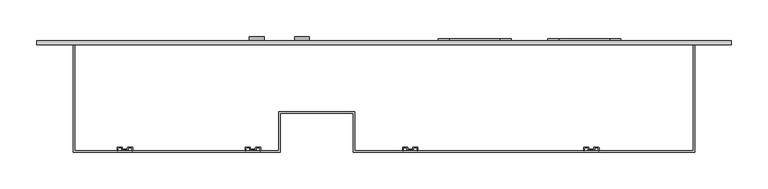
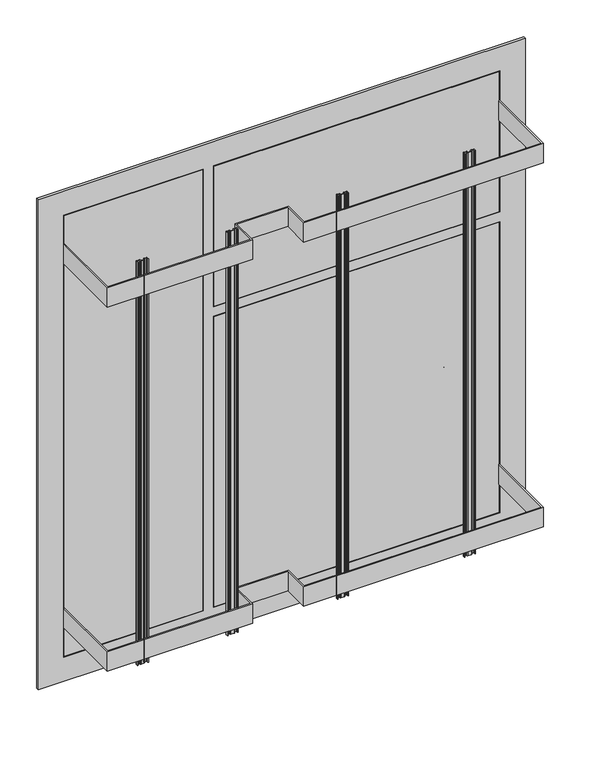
"""IFC4 building model written with IfcOpenShell, lengths in millimetres: proxy geometry, ЩЭ : ЩЭ_3 квартиры."""

from ifc_helpers import new_model, si_unit, point, frame, frame_2d, origin, place, context, project, spatial, polyline, circle_curve, trimmed, segment, composite_curve, outline, extrude, source, transform, mapped, element, save
from ifc_brep_helpers import plane_surface, cylinder_surface, revolved_surface, advanced_brep


def electrical_equipment_25a24726(model_context):
    return source(origin(), model_context, "Body", "SolidModel", [
        extrude(outline(composite_curve([segment(trimmed(circle_curve(frame_2d((373.0, 239.0)), 15.0), [point((388.0, 239.0))], [point((373.0, 224.0))], False, "CARTESIAN"), True, "CONTINUOUS"), segment(polyline([(373.0, 224.0), (338.0, 224.0)]), True, "CONTINUOUS"), segment(trimmed(circle_curve(frame_2d((338.0, 239.0)), 15.0), [point((338.0, 224.0))], [point((323.0, 239.0))], False, "CARTESIAN"), True, "CONTINUOUS"), segment(polyline([(323.0, 239.0), (323.0, 309.0)]), True, "CONTINUOUS"), segment(trimmed(circle_curve(frame_2d((338.0, 309.0)), 15.0), [point((323.0, 309.0))], [point((338.0, 324.0))], False, "CARTESIAN"), True, "CONTINUOUS"), segment(polyline([(338.0, 324.0), (373.0, 324.0)]), True, "CONTINUOUS"), segment(trimmed(circle_curve(frame_2d((373.0, 309.0)), 15.0), [point((373.0, 324.0))], [point((388.0, 309.0))], False, "CARTESIAN"), True, "CONTINUOUS"), segment(polyline([(388.0, 309.0), (388.0, 239.0)]), True, "CONTINUOUS")], self_intersect=False)), frame((0.0, 5.0, 0.0), z_axis=(0.0, 1.0, 0.0), x_axis=(0.0, 0.0, 1.0)), (0.0, 0.0, 1.0), 3.0),
        extrude(outline(composite_curve([segment(trimmed(circle_curve(frame_2d((498.0, 89.0)), 15.0), [point((513.0, 89.0))], [point((498.0, 74.0))], False, "CARTESIAN"), True, "CONTINUOUS"), segment(polyline([(498.0, 74.0), (463.0, 74.0)]), True, "CONTINUOUS"), segment(trimmed(circle_curve(frame_2d((463.0, 89.0)), 15.0), [point((463.0, 74.0))], [point((448.0, 89.0))], False, "CARTESIAN"), True, "CONTINUOUS"), segment(polyline([(448.0, 89.0), (448.0, 159.0)]), True, "CONTINUOUS"), segment(trimmed(circle_curve(frame_2d((463.0, 159.0)), 15.0), [point((448.0, 159.0))], [point((463.0, 174.0))], False, "CARTESIAN"), True, "CONTINUOUS"), segment(polyline([(463.0, 174.0), (498.0, 174.0)]), True, "CONTINUOUS"), segment(trimmed(circle_curve(frame_2d((498.0, 159.0)), 15.0), [point((498.0, 174.0))], [point((513.0, 159.0))], False, "CARTESIAN"), True, "CONTINUOUS"), segment(polyline([(513.0, 159.0), (513.0, 89.0)]), True, "CONTINUOUS")], self_intersect=False)), frame((0.0, 5.0, 0.0), z_axis=(0.0, 1.0, 0.0), x_axis=(0.0, 0.0, 1.0)), (0.0, 0.0, 1.0), 3.0),
        extrude(outline(composite_curve([segment(trimmed(circle_curve(frame_2d((498.0, 239.0)), 15.0), [point((513.0, 239.0))], [point((498.0, 224.0))], False, "CARTESIAN"), True, "CONTINUOUS"), segment(polyline([(498.0, 224.0), (463.0, 224.0)]), True, "CONTINUOUS"), segment(trimmed(circle_curve(frame_2d((463.0, 239.0)), 15.0), [point((463.0, 224.0))], [point((448.0, 239.0))], False, "CARTESIAN"), True, "CONTINUOUS"), segment(polyline([(448.0, 239.0), (448.0, 309.0)]), True, "CONTINUOUS"), segment(trimmed(circle_curve(frame_2d((463.0, 309.0)), 15.0), [point((448.0, 309.0))], [point((463.0, 324.0))], False, "CARTESIAN"), True, "CONTINUOUS"), segment(polyline([(463.0, 324.0), (498.0, 324.0)]), True, "CONTINUOUS"), segment(trimmed(circle_curve(frame_2d((498.0, 309.0)), 15.0), [point((498.0, 324.0))], [point((513.0, 309.0))], False, "CARTESIAN"), True, "CONTINUOUS"), segment(polyline([(513.0, 309.0), (513.0, 239.0)]), True, "CONTINUOUS")], self_intersect=False)), frame((0.0, 5.0, 0.0), z_axis=(0.0, 1.0, 0.0), x_axis=(0.0, 0.0, 1.0)), (0.0, 0.0, 1.0), 3.0),
        extrude(outline(composite_curve([segment(trimmed(circle_curve(frame_2d((26.3020158, -141.0)), 1.0), [point((25.3020158, -141.0))], [point((26.3020158, -140.0))], False, "CARTESIAN"), True, "CONTINUOUS"), segment(polyline([(26.3020158, -140.0), (31.3020158, -140.0)]), True, "CONTINUOUS"), segment(trimmed(circle_curve(frame_2d((31.3020158, -141.0)), 1.0), [point((31.3020158, -140.0))], [point((32.3020158, -141.0))], False, "CARTESIAN"), True, "CONTINUOUS"), segment(polyline([(32.3020158, -141.0), (32.3020158, -142.0)]), True, "CONTINUOUS"), segment(trimmed(circle_curve(frame_2d((33.3020158, -142.0)), 1.0), [point((32.3020158, -142.0))], [point((33.3020158, -143.0))], True, "CARTESIAN"), True, "CONTINUOUS"), segment(polyline([(33.3020158, -143.0), (38.3020158, -143.0)]), True, "CONTINUOUS"), segment(trimmed(circle_curve(frame_2d((38.3020158, -142.0)), 1.0), [point((38.3020158, -143.0))], [point((39.3020158, -142.0))], True, "CARTESIAN"), True, "CONTINUOUS"), segment(polyline([(39.3020158, -142.0), (39.3020158, -141.0)]), True, "CONTINUOUS"), segment(trimmed(circle_curve(frame_2d((40.3020158, -141.0)), 1.0), [point((39.3020158, -141.0))], [point((40.3020158, -140.0))], False, "CARTESIAN"), True, "CONTINUOUS"), segment(polyline([(40.3020158, -140.0), (45.3020158, -140.0)]), True, "CONTINUOUS"), segment(trimmed(circle_curve(frame_2d((45.3020158, -141.0)), 1.0), [point((45.3020158, -140.0))], [point((46.3020158, -141.0))], False, "CARTESIAN"), True, "CONTINUOUS"), segment(polyline([(46.3020158, -141.0), (46.3020158, -145.0), (45.3020158, -145.0), (45.3020158, -142.0)]), True, "CONTINUOUS"), segment(trimmed(circle_curve(frame_2d((44.3020158, -142.0)), 1.0), [point((45.3020158, -142.0))], [point((44.3020158, -141.0))], True, "CARTESIAN"), True, "CONTINUOUS"), segment(polyline([(44.3020158, -141.0), (41.3020158, -141.0)]), True, "CONTINUOUS"), segment(trimmed(circle_curve(frame_2d((41.3020158, -142.0)), 1.0), [point((41.3020158, -141.0))], [point((40.3020158, -142.0))], True, "CARTESIAN"), True, "CONTINUOUS"), segment(polyline([(40.3020158, -142.0), (40.3020158, -143.0)]), True, "CONTINUOUS"), segment(trimmed(circle_curve(frame_2d((39.3020158, -143.0)), 1.0), [point((40.3020158, -143.0))], [point((39.3020158, -144.0))], False, "CARTESIAN"), True, "CONTINUOUS"), segment(polyline([(39.3020158, -144.0), (32.3020158, -144.0)]), True, "CONTINUOUS"), segment(trimmed(circle_curve(frame_2d((32.3020158, -143.0)), 1.0), [point((32.3020158, -144.0))], [point((31.3020158, -143.0))], False, "CARTESIAN"), True, "CONTINUOUS"), segment(polyline([(31.3020158, -143.0), (31.3020158, -142.0)]), True, "CONTINUOUS"), segment(trimmed(circle_curve(frame_2d((30.3020158, -142.0)), 1.0), [point((31.3020158, -142.0))], [point((30.3020158, -141.0))], True, "CARTESIAN"), True, "CONTINUOUS"), segment(polyline([(30.3020158, -141.0), (27.3020158, -141.0)]), True, "CONTINUOUS"), segment(trimmed(circle_curve(frame_2d((27.3020158, -142.0)), 1.0), [point((27.3020158, -141.0))], [point((26.3020158, -142.0))], True, "CARTESIAN"), True, "CONTINUOUS"), segment(polyline([(26.3020158, -142.0), (26.3020158, -145.0), (25.3020158, -145.0), (25.3020158, -141.0)]), True, "CONTINUOUS")], self_intersect=False)), frame((0.0, 0.0, 99.2671013), z_axis=(0.0, 0.0, 1.0), x_axis=(1.0, 0.0, 0.0)), (0.0, 0.0, 1.0), 830.6584154),
        extrude(outline(composite_curve([segment(trimmed(circle_curve(frame_2d((274.0, -141.0)), 1.0), [point((273.0, -141.0))], [point((274.0, -140.0))], False, "CARTESIAN"), True, "CONTINUOUS"), segment(polyline([(274.0, -140.0), (279.0, -140.0)]), True, "CONTINUOUS"), segment(trimmed(circle_curve(frame_2d((279.0, -141.0)), 1.0), [point((279.0, -140.0))], [point((280.0, -141.0))], False, "CARTESIAN"), True, "CONTINUOUS"), segment(polyline([(280.0, -141.0), (280.0, -142.0)]), True, "CONTINUOUS"), segment(trimmed(circle_curve(frame_2d((281.0, -142.0)), 1.0), [point((280.0, -142.0))], [point((281.0, -143.0))], True, "CARTESIAN"), True, "CONTINUOUS"), segment(polyline([(281.0, -143.0), (286.0, -143.0)]), True, "CONTINUOUS"), segment(trimmed(circle_curve(frame_2d((286.0, -142.0)), 1.0), [point((286.0, -143.0))], [point((287.0, -142.0))], True, "CARTESIAN"), True, "CONTINUOUS"), segment(polyline([(287.0, -142.0), (287.0, -141.0)]), True, "CONTINUOUS"), segment(trimmed(circle_curve(frame_2d((288.0, -141.0)), 1.0), [point((287.0, -141.0))], [point((288.0, -140.0))], False, "CARTESIAN"), True, "CONTINUOUS"), segment(polyline([(288.0, -140.0), (293.0, -140.0)]), True, "CONTINUOUS"), segment(trimmed(circle_curve(frame_2d((293.0, -141.0)), 1.0), [point((293.0, -140.0))], [point((294.0, -141.0))], False, "CARTESIAN"), True, "CONTINUOUS"), segment(polyline([(294.0, -141.0), (294.0, -145.0), (293.0, -145.0), (293.0, -142.0)]), True, "CONTINUOUS"), segment(trimmed(circle_curve(frame_2d((292.0, -142.0)), 1.0), [point((293.0, -142.0))], [point((292.0, -141.0))], True, "CARTESIAN"), True, "CONTINUOUS"), segment(polyline([(292.0, -141.0), (289.0, -141.0)]), True, "CONTINUOUS"), segment(trimmed(circle_curve(frame_2d((289.0, -142.0)), 1.0), [point((289.0, -141.0))], [point((288.0, -142.0))], True, "CARTESIAN"), True, "CONTINUOUS"), segment(polyline([(288.0, -142.0), (288.0, -143.0)]), True, "CONTINUOUS"), segment(trimmed(circle_curve(frame_2d((287.0, -143.0)), 1.0), [point((288.0, -143.0))], [point((287.0, -144.0))], False, "CARTESIAN"), True, "CONTINUOUS"), segment(polyline([(287.0, -144.0), (280.0, -144.0)]), True, "CONTINUOUS"), segment(trimmed(circle_curve(frame_2d((280.0, -143.0)), 1.0), [point((280.0, -144.0))], [point((279.0, -143.0))], False, "CARTESIAN"), True, "CONTINUOUS"), segment(polyline([(279.0, -143.0), (279.0, -142.0)]), True, "CONTINUOUS"), segment(trimmed(circle_curve(frame_2d((278.0, -142.0)), 1.0), [point((279.0, -142.0))], [point((278.0, -141.0))], True, "CARTESIAN"), True, "CONTINUOUS"), segment(polyline([(278.0, -141.0), (275.0, -141.0)]), True, "CONTINUOUS"), segment(trimmed(circle_curve(frame_2d((275.0, -142.0)), 1.0), [point((275.0, -141.0))], [point((274.0, -142.0))], True, "CARTESIAN"), True, "CONTINUOUS"), segment(polyline([(274.0, -142.0), (274.0, -145.0), (273.0, -145.0), (273.0, -141.0)]), True, "CONTINUOUS")], self_intersect=False)), frame((0.0, 0.0, 99.2671013), z_axis=(0.0, 0.0, 1.0), x_axis=(1.0, 0.0, 0.0)), (0.0, 0.0, 1.0), 830.6584154),
        extrude(outline(composite_curve([segment(trimmed(circle_curve(frame_2d((-188.6979842, -141.0)), 1.0), [point((-189.6979842, -141.0))], [point((-188.6979842, -140.0))], False, "CARTESIAN"), True, "CONTINUOUS"), segment(polyline([(-188.6979842, -140.0), (-183.6979842, -140.0)]), True, "CONTINUOUS"), segment(trimmed(circle_curve(frame_2d((-183.6979842, -141.0)), 1.0), [point((-183.6979842, -140.0))], [point((-182.6979842, -141.0))], False, "CARTESIAN"), True, "CONTINUOUS"), segment(polyline([(-182.6979842, -141.0), (-182.6979842, -142.0)]), True, "CONTINUOUS"), segment(trimmed(circle_curve(frame_2d((-181.6979842, -142.0)), 1.0), [point((-182.6979842, -142.0))], [point((-181.6979842, -143.0))], True, "CARTESIAN"), True, "CONTINUOUS"), segment(polyline([(-181.6979842, -143.0), (-176.6979842, -143.0)]), True, "CONTINUOUS"), segment(trimmed(circle_curve(frame_2d((-176.6979842, -142.0)), 1.0), [point((-176.6979842, -143.0))], [point((-175.6979842, -142.0))], True, "CARTESIAN"), True, "CONTINUOUS"), segment(polyline([(-175.6979842, -142.0), (-175.6979842, -141.0)]), True, "CONTINUOUS"), segment(trimmed(circle_curve(frame_2d((-174.6979842, -141.0)), 1.0), [point((-175.6979842, -141.0))], [point((-174.6979842, -140.0))], False, "CARTESIAN"), True, "CONTINUOUS"), segment(polyline([(-174.6979842, -140.0), (-169.6979842, -140.0)]), True, "CONTINUOUS"), segment(trimmed(circle_curve(frame_2d((-169.6979842, -141.0)), 1.0), [point((-169.6979842, -140.0))], [point((-168.6979842, -141.0))], False, "CARTESIAN"), True, "CONTINUOUS"), segment(polyline([(-168.6979842, -141.0), (-168.6979842, -145.0), (-169.6979842, -145.0), (-169.6979842, -142.0)]), True, "CONTINUOUS"), segment(trimmed(circle_curve(frame_2d((-170.6979842, -142.0)), 1.0), [point((-169.6979842, -142.0))], [point((-170.6979842, -141.0))], True, "CARTESIAN"), True, "CONTINUOUS"), segment(polyline([(-170.6979842, -141.0), (-173.6979842, -141.0)]), True, "CONTINUOUS"), segment(trimmed(circle_curve(frame_2d((-173.6979842, -142.0)), 1.0), [point((-173.6979842, -141.0))], [point((-174.6979842, -142.0))], True, "CARTESIAN"), True, "CONTINUOUS"), segment(polyline([(-174.6979842, -142.0), (-174.6979842, -143.0)]), True, "CONTINUOUS"), segment(trimmed(circle_curve(frame_2d((-175.6979842, -143.0)), 1.0), [point((-174.6979842, -143.0))], [point((-175.6979842, -144.0))], False, "CARTESIAN"), True, "CONTINUOUS"), segment(polyline([(-175.6979842, -144.0), (-182.6979842, -144.0)]), True, "CONTINUOUS"), segment(trimmed(circle_curve(frame_2d((-182.6979842, -143.0)), 1.0), [point((-182.6979842, -144.0))], [point((-183.6979842, -143.0))], False, "CARTESIAN"), True, "CONTINUOUS"), segment(polyline([(-183.6979842, -143.0), (-183.6979842, -142.0)]), True, "CONTINUOUS"), segment(trimmed(circle_curve(frame_2d((-184.6979842, -142.0)), 1.0), [point((-183.6979842, -142.0))], [point((-184.6979842, -141.0))], True, "CARTESIAN"), True, "CONTINUOUS"), segment(polyline([(-184.6979842, -141.0), (-187.6979842, -141.0)]), True, "CONTINUOUS"), segment(trimmed(circle_curve(frame_2d((-187.6979842, -142.0)), 1.0), [point((-187.6979842, -141.0))], [point((-188.6979842, -142.0))], True, "CARTESIAN"), True, "CONTINUOUS"), segment(polyline([(-188.6979842, -142.0), (-188.6979842, -145.0), (-189.6979842, -145.0), (-189.6979842, -141.0)]), True, "CONTINUOUS")], self_intersect=False)), frame((0.0, 0.0, 99.2671013), z_axis=(0.0, 0.0, 1.0), x_axis=(1.0, 0.0, 0.0)), (0.0, 0.0, 1.0), 830.6584154),
        extrude(outline(composite_curve([segment(trimmed(circle_curve(frame_2d((-363.6979842, -141.0)), 1.0), [point((-364.6979842, -141.0))], [point((-363.6979842, -140.0))], False, "CARTESIAN"), True, "CONTINUOUS"), segment(polyline([(-363.6979842, -140.0), (-358.6979842, -140.0)]), True, "CONTINUOUS"), segment(trimmed(circle_curve(frame_2d((-358.6979842, -141.0)), 1.0), [point((-358.6979842, -140.0))], [point((-357.6979842, -141.0))], False, "CARTESIAN"), True, "CONTINUOUS"), segment(polyline([(-357.6979842, -141.0), (-357.6979842, -142.0)]), True, "CONTINUOUS"), segment(trimmed(circle_curve(frame_2d((-356.6979842, -142.0)), 1.0), [point((-357.6979842, -142.0))], [point((-356.6979842, -143.0))], True, "CARTESIAN"), True, "CONTINUOUS"), segment(polyline([(-356.6979842, -143.0), (-351.6979842, -143.0)]), True, "CONTINUOUS"), segment(trimmed(circle_curve(frame_2d((-351.6979842, -142.0)), 1.0), [point((-351.6979842, -143.0))], [point((-350.6979842, -142.0))], True, "CARTESIAN"), True, "CONTINUOUS"), segment(polyline([(-350.6979842, -142.0), (-350.6979842, -141.0)]), True, "CONTINUOUS"), segment(trimmed(circle_curve(frame_2d((-349.6979842, -141.0)), 1.0), [point((-350.6979842, -141.0))], [point((-349.6979842, -140.0))], False, "CARTESIAN"), True, "CONTINUOUS"), segment(polyline([(-349.6979842, -140.0), (-344.6979842, -140.0)]), True, "CONTINUOUS"), segment(trimmed(circle_curve(frame_2d((-344.6979842, -141.0)), 1.0), [point((-344.6979842, -140.0))], [point((-343.6979842, -141.0))], False, "CARTESIAN"), True, "CONTINUOUS"), segment(polyline([(-343.6979842, -141.0), (-343.6979842, -145.0), (-344.6979842, -145.0), (-344.6979842, -142.0)]), True, "CONTINUOUS"), segment(trimmed(circle_curve(frame_2d((-345.6979842, -142.0)), 1.0), [point((-344.6979842, -142.0))], [point((-345.6979842, -141.0))], True, "CARTESIAN"), True, "CONTINUOUS"), segment(polyline([(-345.6979842, -141.0), (-348.6979842, -141.0)]), True, "CONTINUOUS"), segment(trimmed(circle_curve(frame_2d((-348.6979842, -142.0)), 1.0), [point((-348.6979842, -141.0))], [point((-349.6979842, -142.0))], True, "CARTESIAN"), True, "CONTINUOUS"), segment(polyline([(-349.6979842, -142.0), (-349.6979842, -143.0)]), True, "CONTINUOUS"), segment(trimmed(circle_curve(frame_2d((-350.6979842, -143.0)), 1.0), [point((-349.6979842, -143.0))], [point((-350.6979842, -144.0))], False, "CARTESIAN"), True, "CONTINUOUS"), segment(polyline([(-350.6979842, -144.0), (-357.6979842, -144.0)]), True, "CONTINUOUS"), segment(trimmed(circle_curve(frame_2d((-357.6979842, -143.0)), 1.0), [point((-357.6979842, -144.0))], [point((-358.6979842, -143.0))], False, "CARTESIAN"), True, "CONTINUOUS"), segment(polyline([(-358.6979842, -143.0), (-358.6979842, -142.0)]), True, "CONTINUOUS"), segment(trimmed(circle_curve(frame_2d((-359.6979842, -142.0)), 1.0), [point((-358.6979842, -142.0))], [point((-359.6979842, -141.0))], True, "CARTESIAN"), True, "CONTINUOUS"), segment(polyline([(-359.6979842, -141.0), (-362.6979842, -141.0)]), True, "CONTINUOUS"), segment(trimmed(circle_curve(frame_2d((-362.6979842, -142.0)), 1.0), [point((-362.6979842, -141.0))], [point((-363.6979842, -142.0))], True, "CARTESIAN"), True, "CONTINUOUS"), segment(polyline([(-363.6979842, -142.0), (-363.6979842, -145.0), (-364.6979842, -145.0), (-364.6979842, -141.0)]), True, "CONTINUOUS")], self_intersect=False)), frame((0.0, 0.0, 99.2671013), z_axis=(0.0, 0.0, 1.0), x_axis=(1.0, 0.0, 0.0)), (0.0, 0.0, 1.0), 830.6584154),
        extrude(outline(polyline([(424.0, 0.0), (-132.0, 0.0), (-132.0, 5.0), (424.0, 5.0), (424.0, 0.0)])), frame((0.0, 0.0, 670.5), z_axis=(0.0, 0.0, 1.0), x_axis=(1.0, 0.0, 0.0)), (0.0, 0.0, 1.0), 288.5),
        extrude(outline(polyline([(-425.0, -147.0), (-425.0, 0.0), (-423.0, 0.0), (-423.0, -145.0), (-144.0, -145.0), (-144.0, -92.0), (-40.0, -92.0), (-40.0, -145.0), (423.0, -145.0), (423.0, 0.0), (425.0, 0.0), (425.0, -147.0), (-42.0, -147.0), (-42.0, -94.0), (-142.0, -94.0), (-142.0, -147.0), (-425.0, -147.0)])), frame((0.0, 0.0, 860.0), z_axis=(0.0, 0.0, 1.0), x_axis=(1.0, 0.0, 0.0)), (0.0, 0.0, 1.0), 40.0),
        extrude(outline(polyline([(-425.0, -147.0), (-425.0, 0.0), (-423.0, 0.0), (-423.0, -145.0), (-144.0, -145.0), (-144.0, -92.0), (-40.0, -92.0), (-40.0, -145.0), (423.0, -145.0), (423.0, 0.0), (425.0, 0.0), (425.0, -147.0), (-42.0, -147.0), (-42.0, -94.0), (-142.0, -94.0), (-142.0, -147.0), (-425.0, -147.0)])), frame((0.0, 0.0, 110.0), z_axis=(0.0, 0.0, 1.0), x_axis=(1.0, 0.0, 0.0)), (0.0, 0.0, 1.0), 40.0),
        advanced_brep(
        [(-184.0, 5.0, 505.0), (-164.0, 5.0, 505.0), (-174.0, 5.0, 505.0), (-184.0, 11.0, 505.0), (-164.0, 11.0, 505.0), (-177.1377642, 11.0, 505.0), (-170.8622358, 11.0, 505.0), (-177.1377642, 9.9822294, 505.0), (-170.8622358, 9.9822294, 505.0), (-174.0, 9.9822294, 505.0)],
        [
            (0, 1, circle_curve(frame((-174.0, 5.0, 505.0), z_axis=(0.0, -1.0, 0.0), x_axis=(1.0, 0.0, 0.0)), 10.0)),
            (1, 2),
            (2, 0),
            (1, 0, circle_curve(frame((-174.0, 5.0, 505.0), z_axis=(0.0, -1.0, 0.0), x_axis=(1.0, 0.0, 0.0)), 10.0)),
            (3, 4, circle_curve(frame((-174.0, 11.0, 505.0), z_axis=(0.0, -1.0, 0.0), x_axis=(1.0, 0.0, 0.0)), 10.0)),
            (4, 1),
            (0, 3),
            (4, 3, circle_curve(frame((-174.0, 11.0, 505.0), z_axis=(0.0, -1.0, 0.0), x_axis=(1.0, 0.0, 0.0)), 10.0)),
            (5, 6, circle_curve(frame((-174.0, 11.0, 505.0), z_axis=(0.0, -1.0, 0.0), x_axis=(1.0, 0.0, 0.0)), 3.1377642)),
            (6, 4),
            (3, 5),
            (6, 5, circle_curve(frame((-174.0, 11.0, 505.0), z_axis=(0.0, -1.0, 0.0), x_axis=(1.0, 0.0, 0.0)), 3.1377642)),
            (7, 8, circle_curve(frame((-174.0, 9.9822294, 505.0), z_axis=(0.0, -1.0, 0.0), x_axis=(1.0, 0.0, 0.0)), 3.1377642)),
            (8, 6),
            (5, 7),
            (8, 7, circle_curve(frame((-174.0, 9.9822294, 505.0), z_axis=(0.0, -1.0, 0.0), x_axis=(1.0, 0.0, 0.0)), 3.1377642)),
            (9, 8),
            (7, 9),
        ],
        [
            plane_surface(frame((-174.0, 5.0, 505.0), z_axis=(0.0, -1.0, 0.0), x_axis=(1.0, 0.0, 0.0))),
            cylinder_surface(frame((-174.0, 18.1348851, 505.0), z_axis=(0.0, 1.0, 0.0), x_axis=(1.0, 0.0, 0.0)), 10.0),
            plane_surface(frame((-174.0, 11.0, 505.0), z_axis=(0.0, 1.0, 0.0), x_axis=(1.0, 0.0, 0.0))),
            revolved_surface(polyline([(-170.8622358, 11.0, 505.0), (-170.8622358, 9.9822294, 505.0)]), (-174.0, 18.1348851, 505.0), (0.0, 1.0, 0.0)),
            plane_surface(frame((-174.0, 9.9822294, 505.0), z_axis=(0.0, 1.0, 0.0), x_axis=(1.0, 0.0, 0.0))),
        ],
        [
            (0, [[1, 2, 3]]),
            (0, [[4, -3, -2]]),
            (1, [[5, 6, -1, 7]]),
            (1, [[8, -7, -4, -6]]),
            (2, [[9, 10, -5, 11]]),
            (2, [[12, -11, -8, -10]]),
            (3, [[13, 14, -9, 15]]),
            (3, [[16, -15, -12, -14]]),
            (4, [[17, -13, 18]]),
            (4, [[-18, -16, -17]]),
        ],
    ),
        advanced_brep(
        [(-122.0, 5.0, 340.3115373), (-102.0, 5.0, 340.3115373), (-112.0, 5.0, 340.3115373), (-122.0, 11.0, 340.3115373), (-102.0, 11.0, 340.3115373), (-115.1377642, 11.0, 340.3115373), (-108.8622358, 11.0, 340.3115373), (-115.1377642, 9.9822294, 340.3115373), (-108.8622358, 9.9822294, 340.3115373), (-112.0, 9.9822294, 340.3115373)],
        [
            (0, 1, circle_curve(frame((-112.0, 5.0, 340.3115373), z_axis=(0.0, -1.0, 0.0), x_axis=(1.0, 0.0, 0.0)), 10.0)),
            (1, 2),
            (2, 0),
            (1, 0, circle_curve(frame((-112.0, 5.0, 340.3115373), z_axis=(0.0, -1.0, 0.0), x_axis=(1.0, 0.0, 0.0)), 10.0)),
            (3, 4, circle_curve(frame((-112.0, 11.0, 340.3115373), z_axis=(0.0, -1.0, 0.0), x_axis=(1.0, 0.0, 0.0)), 10.0)),
            (4, 1),
            (0, 3),
            (4, 3, circle_curve(frame((-112.0, 11.0, 340.3115373), z_axis=(0.0, -1.0, 0.0), x_axis=(1.0, 0.0, 0.0)), 10.0)),
            (5, 6, circle_curve(frame((-112.0, 11.0, 340.3115373), z_axis=(0.0, -1.0, 0.0), x_axis=(1.0, 0.0, 0.0)), 3.1377642)),
            (6, 4),
            (3, 5),
            (6, 5, circle_curve(frame((-112.0, 11.0, 340.3115373), z_axis=(0.0, -1.0, 0.0), x_axis=(1.0, 0.0, 0.0)), 3.1377642)),
            (7, 8, circle_curve(frame((-112.0, 9.9822294, 340.3115373), z_axis=(0.0, -1.0, 0.0), x_axis=(1.0, 0.0, 0.0)), 3.1377642)),
            (8, 6),
            (5, 7),
            (8, 7, circle_curve(frame((-112.0, 9.9822294, 340.3115373), z_axis=(0.0, -1.0, 0.0), x_axis=(1.0, 0.0, 0.0)), 3.1377642)),
            (9, 8),
            (7, 9),
        ],
        [
            plane_surface(frame((-112.0, 5.0, 340.3115373), z_axis=(0.0, -1.0, 0.0), x_axis=(1.0, 0.0, 0.0))),
            cylinder_surface(frame((-112.0, 18.1348851, 340.3115373), z_axis=(0.0, 1.0, 0.0), x_axis=(1.0, 0.0, 0.0)), 10.0),
            plane_surface(frame((-112.0, 11.0, 340.3115373), z_axis=(0.0, 1.0, 0.0), x_axis=(1.0, 0.0, 0.0))),
            revolved_surface(polyline([(-108.8622358, 11.0, 340.3115373), (-108.8622358, 9.9822294, 340.3115373)]), (-112.0, 18.1348851, 340.3115373), (0.0, 1.0, 0.0)),
            plane_surface(frame((-112.0, 9.9822294, 340.3115373), z_axis=(0.0, 1.0, 0.0), x_axis=(1.0, 0.0, 0.0))),
        ],
        [
            (0, [[1, 2, 3]]),
            (0, [[4, -3, -2]]),
            (1, [[5, 6, -1, 7]]),
            (1, [[8, -7, -4, -6]]),
            (2, [[9, 10, -5, 11]]),
            (2, [[12, -11, -8, -10]]),
            (3, [[13, 14, -9, 15]]),
            (3, [[16, -15, -12, -14]]),
            (4, [[17, -13, 18]]),
            (4, [[-18, -16, -17]]),
        ],
    ),
        advanced_brep(
        [(-122.0, 5.0, 780.3115373), (-102.0, 5.0, 780.3115373), (-112.0, 5.0, 780.3115373), (-122.0, 11.0, 780.3115373), (-102.0, 11.0, 780.3115373), (-115.1377642, 11.0, 780.3115373), (-108.8622358, 11.0, 780.3115373), (-115.1377642, 9.9822294, 780.3115373), (-108.8622358, 9.9822294, 780.3115373), (-112.0, 9.9822294, 780.3115373)],
        [
            (0, 1, circle_curve(frame((-112.0, 5.0, 780.3115373), z_axis=(0.0, -1.0, 0.0), x_axis=(1.0, 0.0, 0.0)), 10.0)),
            (1, 2),
            (2, 0),
            (1, 0, circle_curve(frame((-112.0, 5.0, 780.3115373), z_axis=(0.0, -1.0, 0.0), x_axis=(1.0, 0.0, 0.0)), 10.0)),
            (3, 4, circle_curve(frame((-112.0, 11.0, 780.3115373), z_axis=(0.0, -1.0, 0.0), x_axis=(1.0, 0.0, 0.0)), 10.0)),
            (4, 1),
            (0, 3),
            (4, 3, circle_curve(frame((-112.0, 11.0, 780.3115373), z_axis=(0.0, -1.0, 0.0), x_axis=(1.0, 0.0, 0.0)), 10.0)),
            (5, 6, circle_curve(frame((-112.0, 11.0, 780.3115373), z_axis=(0.0, -1.0, 0.0), x_axis=(1.0, 0.0, 0.0)), 3.1377642)),
            (6, 4),
            (3, 5),
            (6, 5, circle_curve(frame((-112.0, 11.0, 780.3115373), z_axis=(0.0, -1.0, 0.0), x_axis=(1.0, 0.0, 0.0)), 3.1377642)),
            (7, 8, circle_curve(frame((-112.0, 9.9822294, 780.3115373), z_axis=(0.0, -1.0, 0.0), x_axis=(1.0, 0.0, 0.0)), 3.1377642)),
            (8, 6),
            (5, 7),
            (8, 7, circle_curve(frame((-112.0, 9.9822294, 780.3115373), z_axis=(0.0, -1.0, 0.0), x_axis=(1.0, 0.0, 0.0)), 3.1377642)),
            (9, 8),
            (7, 9),
        ],
        [
            plane_surface(frame((-112.0, 5.0, 780.3115373), z_axis=(0.0, -1.0, 0.0), x_axis=(1.0, 0.0, 0.0))),
            cylinder_surface(frame((-112.0, 18.1348851, 780.3115373), z_axis=(0.0, 1.0, 0.0), x_axis=(1.0, 0.0, 0.0)), 10.0),
            plane_surface(frame((-112.0, 11.0, 780.3115373), z_axis=(0.0, 1.0, 0.0), x_axis=(1.0, 0.0, 0.0))),
            revolved_surface(polyline([(-108.8622358, 11.0, 780.3115373), (-108.8622358, 9.9822294, 780.3115373)]), (-112.0, 18.1348851, 780.3115373), (0.0, 1.0, 0.0)),
            plane_surface(frame((-112.0, 9.9822294, 780.3115373), z_axis=(0.0, 1.0, 0.0), x_axis=(1.0, 0.0, 0.0))),
        ],
        [
            (0, [[1, 2, 3]]),
            (0, [[4, -3, -2]]),
            (1, [[5, 6, -1, 7]]),
            (1, [[8, -7, -4, -6]]),
            (2, [[9, 10, -5, 11]]),
            (2, [[12, -11, -8, -10]]),
            (3, [[13, 14, -9, 15]]),
            (3, [[16, -15, -12, -14]]),
            (4, [[17, -13, 18]]),
            (4, [[-18, -16, -17]]),
        ],
    ),
        extrude(outline(polyline([(-154.0, 0.0), (-424.0, 0.0), (-424.0, 5.0), (-154.0, 5.0), (-154.0, 0.0)])), frame((0.0, 0.0, 51.0), z_axis=(0.0, 0.0, 1.0), x_axis=(1.0, 0.0, 0.0)), (0.0, 0.0, 1.0), 908.0),
        extrude(outline(polyline([(424.0, 0.0), (-132.0, 0.0), (-132.0, 5.0), (424.0, 5.0), (424.0, 0.0)])), frame((0.0, 0.0, 51.0), z_axis=(0.0, 0.0, 1.0), x_axis=(1.0, 0.0, 0.0)), (0.0, 0.0, 1.0), 597.5),
        extrude(outline(polyline([(1010.0, -475.0), (0.0, -475.0), (0.0, 475.0), (1010.0, 475.0), (1010.0, -475.0)]), holes=[polyline([(960.0, -133.0), (960.0, 425.0), (669.5, 425.0), (669.5, -133.0), (960.0, -133.0)]), polyline([(649.5, 425.0), (50.0, 425.0), (50.0, -133.0), (649.5, -133.0), (649.5, 425.0)]), polyline([(50.0, -153.0), (50.0, -425.0), (960.0, -425.0), (960.0, -153.0), (50.0, -153.0)])]), frame((0.0, 0.0, 0.0), z_axis=(0.0, 1.0, 0.0), x_axis=(0.0, 0.0, 1.0)), (0.0, 0.0, 1.0), 5.0),
    ])


if __name__ == "__main__":
    model = new_model("IFC4")
    model_context = context("Model", 3, world=origin())
    ifc_project = project(units=[si_unit("LENGTHUNIT", "METRE", prefix="MILLI")], contexts=[model_context])
    site = spatial("IfcSite", under=ifc_project)
    building = spatial("IfcBuilding", under=site)
    placement = place(None, origin())
    electrical_equipment_shape = electrical_equipment_25a24726(model_context)
    element("IfcBuildingElementProxy", 1, Name="ЩЭ : ЩЭ_3 квартиры", ObjectType="ЩЭ : ЩЭ_3 квартиры", at=placement, inside=building, context=model_context, shape_type="MappedRepresentation", body=[
        mapped(electrical_equipment_shape, transform((0.0, 0.0, 0.0), x_axis=(1.0, 0.0, 0.0), y_axis=(0.0, 1.0, 0.0), z_axis=(0.0, 0.0, 1.0))),
    ])
    save(model, "model.ifc")
